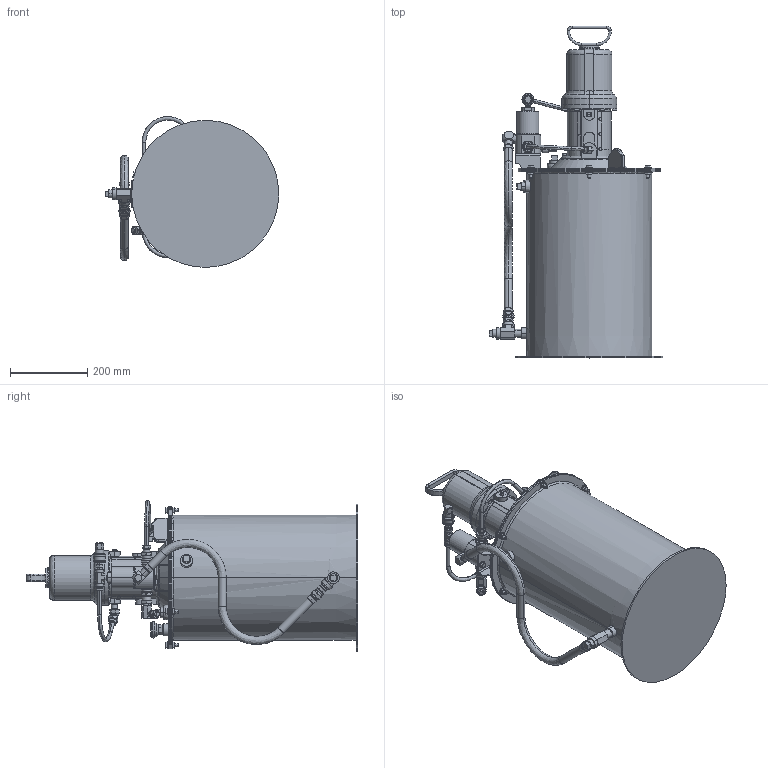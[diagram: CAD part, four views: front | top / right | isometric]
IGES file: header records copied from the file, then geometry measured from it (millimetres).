
Start section:  PTC IGES file: 25d096-en-c.igs
Global section: file name: 25d096-en-c.igs; native system: Creo Parametric by PTC Inc.; preprocessor: 2019030; author: qusrh3; organization: Unknown; date: 20191231.193701; units: inch
Bounding box: 449.66 x 859.52 x 390.52 mm (x, y, z)
Surface area: 1727569.3 mm2 (no closed solid volume)
Topology: 0 solids, 0 shells, 1262 faces, 6169 edges, 6166 vertices
Faces by surface type: revolution 690, bspline 572
